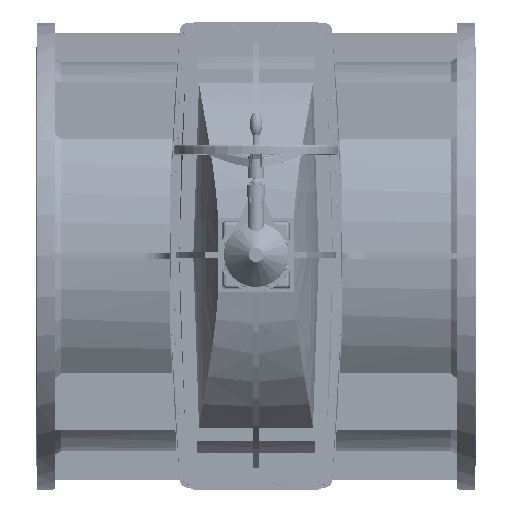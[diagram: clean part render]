
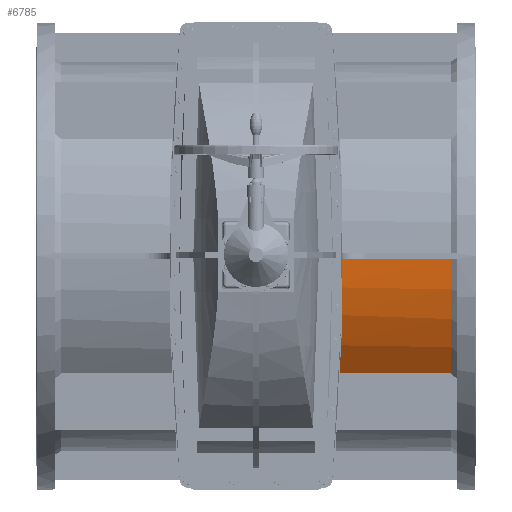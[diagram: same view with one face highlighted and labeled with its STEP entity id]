
A CAD part, top view. The second image highlights one B-rep face of the part: STEP entity #6785.
In plain terms, the highlighted cylindrical face has radius 619 mm (diameter 1238 mm), a partial arc.
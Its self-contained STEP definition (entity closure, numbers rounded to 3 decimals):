
#6785=ADVANCED_FACE('',(#10962),#10964,.T.);
#10962=FACE_BOUND('',#10963,.T.);
#10963=EDGE_LOOP('',(#27218,#27219,#27220,#27221));
#10964=CYLINDRICAL_SURFACE('',#10965,619.);
#10965=AXIS2_PLACEMENT_3D('',#10966,#10967,#10968);
#10966=CARTESIAN_POINT('',(638.,0.,0.));
#10967=DIRECTION('',(-1.,0.,0.));
#10968=DIRECTION('',(0.,1.,0.));
#27218=ORIENTED_EDGE('',*,*,#35364,.F.);
#27219=ORIENTED_EDGE('',*,*,#35493,.T.);
#27220=ORIENTED_EDGE('',*,*,#35494,.F.);
#27221=ORIENTED_EDGE('',*,*,#35495,.T.);
#35364=EDGE_CURVE('',#39672,#39674,#39675,.T.);
#35493=EDGE_CURVE('',#39672,#39891,#39893,.T.);
#35494=EDGE_CURVE('',#39894,#39891,#39895,.F.);
#35495=EDGE_CURVE('',#39894,#39674,#39896,.F.);
#39672=VERTEX_POINT('',#47530);
#39674=VERTEX_POINT('',#47541);
#39675=LINE('',#47542,#47543);
#39891=VERTEX_POINT('',#48583);
#39893=CIRCLE('',#48594,619.);
#39894=VERTEX_POINT('',#48598);
#39895=LINE('',#48599,#48600);
#39896=B_SPLINE_CURVE_WITH_KNOTS('',3,
(#48602,#48603,#48604,#48605,#48606,#48607,#48608,#48609,#48610,#48611,#48612,#48613,
#48614,#48615,#48616,#48617,#48618,#48619,#48620,#48621,#48622,#48623,#48624,#48625,
#48626,#48627,#48628,#48629,#48630,#48631,#48632,#48633,#48634,#48635,#48636,#48637,
#48638,#48639,#48640,#48641,#48642),
.UNSPECIFIED.,.F.,.F.,
(4,1,1,1,1,1,1,1,1,1,1,1,1,1,1,1,1,1,1,1,1,1,1,1,1,1,1,1,1,1,1,1,1,1,1,1,1,1,4),
(0.,0.014,0.028,0.043,0.058,0.074,
0.09,0.106,0.123,0.141,0.166,
0.193,0.221,0.244,0.267,0.292,
0.317,0.343,0.369,0.397,0.425,
0.464,0.504,0.544,0.574,0.605,
0.636,0.666,0.697,0.728,0.758,
0.789,0.819,0.85,0.88,0.91,
0.94,0.97,1.),
.UNSPECIFIED.);
#47530=CARTESIAN_POINT('',(619.,-371.594,495.054));
#47541=CARTESIAN_POINT('',(193.174,-371.594,495.054));
#47542=CARTESIAN_POINT('',(619.,-371.594,495.054));
#47543=VECTOR('',#47544,1.);
#47544=DIRECTION('',(-1.,0.,0.));
#48583=CARTESIAN_POINT('',(619.,-9.5,618.927));
#48594=AXIS2_PLACEMENT_3D('',#48595,#48596,#48597);
#48595=CARTESIAN_POINT('',(619.,0.,0.));
#48596=DIRECTION('',(-1.,0.,0.));
#48597=DIRECTION('',(0.,-0.6,0.8));
#48598=CARTESIAN_POINT('',(210.11,-9.5,618.927));
#48599=CARTESIAN_POINT('',(619.,-9.5,618.927));
#48600=VECTOR('',#48601,1.);
#48601=DIRECTION('',(-1.,0.,0.));
#48602=CARTESIAN_POINT('',(193.174,-371.594,495.054));
#48603=CARTESIAN_POINT('',(193.303,-370.131,496.153));
#48604=CARTESIAN_POINT('',(193.563,-367.171,498.354));
#48605=CARTESIAN_POINT('',(193.954,-362.663,501.644));
#48606=CARTESIAN_POINT('',(194.352,-358.023,504.967));
#48607=CARTESIAN_POINT('',(194.758,-353.244,508.322));
#48608=CARTESIAN_POINT('',(195.174,-348.276,511.74));
#48609=CARTESIAN_POINT('',(195.601,-343.116,515.214));
#48610=CARTESIAN_POINT('',(196.042,-337.711,518.774));
#48611=CARTESIAN_POINT('',(196.492,-332.109,522.379));
#48612=CARTESIAN_POINT('',(197.015,-325.511,526.523));
#48613=CARTESIAN_POINT('',(197.612,-317.823,531.209));
#48614=CARTESIAN_POINT('',(198.288,-308.894,536.454));
#48615=CARTESIAN_POINT('',(198.932,-300.173,541.378));
#48616=CARTESIAN_POINT('',(199.538,-291.73,545.968));
#48617=CARTESIAN_POINT('',(200.108,-283.6,550.237));
#48618=CARTESIAN_POINT('',(200.686,-275.138,554.519));
#48619=CARTESIAN_POINT('',(201.27,-266.324,558.807));
#48620=CARTESIAN_POINT('',(201.856,-257.207,563.063));
#48621=CARTESIAN_POINT('',(202.447,-247.691,567.316));
#48622=CARTESIAN_POINT('',(203.037,-237.842,571.517));
#48623=CARTESIAN_POINT('',(203.693,-226.437,576.147));
#48624=CARTESIAN_POINT('',(204.401,-213.5,581.082));
#48625=CARTESIAN_POINT('',(205.147,-198.977,586.216));
#48626=CARTESIAN_POINT('',(205.796,-185.394,590.638));
#48627=CARTESIAN_POINT('',(206.357,-172.845,594.418));
#48628=CARTESIAN_POINT('',(206.836,-161.411,597.624));
#48629=CARTESIAN_POINT('',(207.287,-149.874,600.622));
#48630=CARTESIAN_POINT('',(207.708,-138.251,603.403));
#48631=CARTESIAN_POINT('',(208.098,-126.57,605.961));
#48632=CARTESIAN_POINT('',(208.455,-114.852,608.291));
#48633=CARTESIAN_POINT('',(208.779,-103.11,610.391));
#48634=CARTESIAN_POINT('',(209.068,-91.363,612.259));
#48635=CARTESIAN_POINT('',(209.322,-79.621,613.896));
#48636=CARTESIAN_POINT('',(209.541,-67.903,615.302));
#48637=CARTESIAN_POINT('',(209.726,-56.198,616.481));
#48638=CARTESIAN_POINT('',(209.875,-44.509,617.435));
#48639=CARTESIAN_POINT('',(209.99,-32.827,618.166));
#48640=CARTESIAN_POINT('',(210.07,-21.16,618.675));
#48641=CARTESIAN_POINT('',(210.1,-13.385,618.867));
#48642=CARTESIAN_POINT('',(210.11,-9.5,618.927));
